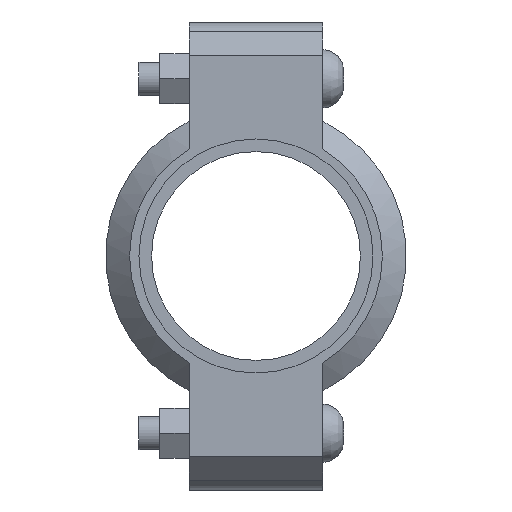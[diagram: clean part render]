
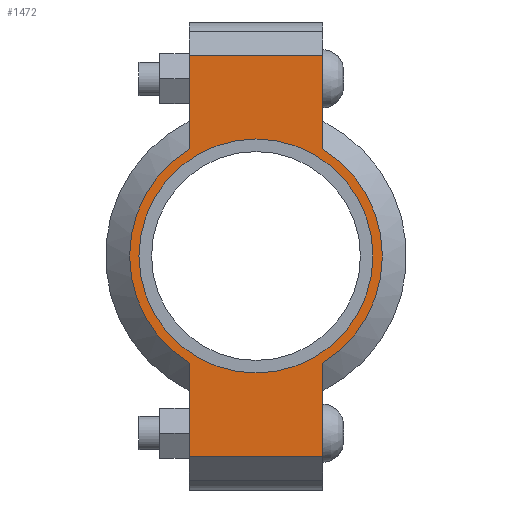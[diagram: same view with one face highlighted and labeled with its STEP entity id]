
A CAD part, left-side view. The second image highlights one B-rep face of the part: STEP entity #1472.
In plain terms, the highlighted planar face has unit normal (-1, 0, 0) as drawn and (0, 0, 1) by its records, which use the part's own axes.
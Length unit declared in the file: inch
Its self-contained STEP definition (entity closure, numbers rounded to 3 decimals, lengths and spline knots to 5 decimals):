
#152=LINE('',#2553,#243);
#160=LINE('',#2589,#251);
#167=LINE('',#2610,#258);
#176=LINE('',#2642,#267);
#177=LINE('',#2646,#268);
#178=LINE('',#2648,#269);
#243=VECTOR('',#2067,0.3937);
#251=VECTOR('',#2083,0.3937);
#258=VECTOR('',#2102,0.3937);
#267=VECTOR('',#2127,0.3937);
#268=VECTOR('',#2132,0.3937);
#269=VECTOR('',#2133,0.3937);
#321=FACE_BOUND('',#481,.T.);
#385=FACE_OUTER_BOUND('',#480,.T.);
#480=EDGE_LOOP('',(#1207,#1208,#1209,#1210,#1211,#1212,#1213,#1214));
#481=EDGE_LOOP('',(#1215));
#578=CIRCLE('',#1733,1.89);
#579=CIRCLE('',#1734,1.89);
#580=CIRCLE('',#1735,1.75);
#683=VERTEX_POINT('',#2550);
#684=VERTEX_POINT('',#2552);
#695=VERTEX_POINT('',#2584);
#696=VERTEX_POINT('',#2588);
#703=VERTEX_POINT('',#2607);
#704=VERTEX_POINT('',#2609);
#714=VERTEX_POINT('',#2645);
#715=VERTEX_POINT('',#2647);
#716=VERTEX_POINT('',#2650);
#847=EDGE_CURVE('',#684,#683,#152,.T.);
#861=EDGE_CURVE('',#696,#695,#160,.T.);
#871=EDGE_CURVE('',#704,#703,#167,.T.);
#886=EDGE_CURVE('',#696,#683,#176,.T.);
#887=EDGE_CURVE('',#695,#704,#578,.T.);
#888=EDGE_CURVE('',#714,#703,#177,.T.);
#889=EDGE_CURVE('',#714,#715,#178,.T.);
#890=EDGE_CURVE('',#715,#684,#579,.T.);
#891=EDGE_CURVE('',#716,#716,#580,.T.);
#1207=ORIENTED_EDGE('',*,*,#886,.F.);
#1208=ORIENTED_EDGE('',*,*,#861,.T.);
#1209=ORIENTED_EDGE('',*,*,#887,.T.);
#1210=ORIENTED_EDGE('',*,*,#871,.T.);
#1211=ORIENTED_EDGE('',*,*,#888,.F.);
#1212=ORIENTED_EDGE('',*,*,#889,.T.);
#1213=ORIENTED_EDGE('',*,*,#890,.T.);
#1214=ORIENTED_EDGE('',*,*,#847,.T.);
#1215=ORIENTED_EDGE('',*,*,#891,.T.);
#1326=PLANE('',#1732);
#1472=ADVANCED_FACE('',(#385,#321),#1326,.T.);
#1732=AXIS2_PLACEMENT_3D('',#2643,#2128,#2129);
#1733=AXIS2_PLACEMENT_3D('',#2644,#2130,#2131);
#1734=AXIS2_PLACEMENT_3D('',#2649,#2134,#2135);
#1735=AXIS2_PLACEMENT_3D('',#2651,#2136,#2137);
#2067=DIRECTION('',(1.,0.,0.));
#2083=DIRECTION('',(-1.,0.,0.));
#2102=DIRECTION('',(-1.,0.,0.));
#2127=DIRECTION('',(0.,-1.,0.));
#2128=DIRECTION('center_axis',(0.,0.,1.));
#2129=DIRECTION('ref_axis',(-1.,0.,0.));
#2130=DIRECTION('center_axis',(0.,0.,1.));
#2131=DIRECTION('ref_axis',(1.,0.,0.));
#2132=DIRECTION('',(0.,1.,0.));
#2133=DIRECTION('',(1.,0.,0.));
#2134=DIRECTION('center_axis',(0.,0.,1.));
#2135=DIRECTION('ref_axis',(1.,0.,0.));
#2136=DIRECTION('center_axis',(0.,0.,-1.));
#2137=DIRECTION('ref_axis',(1.,0.,0.));
#2550=CARTESIAN_POINT('',(3.,-1.,0.94));
#2552=CARTESIAN_POINT('',(1.60378,-1.,0.94));
#2553=CARTESIAN_POINT('',(3.5,-1.,0.94));
#2584=CARTESIAN_POINT('',(1.60378,1.,0.94));
#2588=CARTESIAN_POINT('',(3.,1.,0.94));
#2589=CARTESIAN_POINT('',(-3.5,1.,0.94));
#2607=CARTESIAN_POINT('',(-3.,1.,0.94));
#2609=CARTESIAN_POINT('',(-1.60378,1.,0.94));
#2610=CARTESIAN_POINT('',(-3.5,1.,0.94));
#2642=CARTESIAN_POINT('',(3.,-0.5,0.94));
#2643=CARTESIAN_POINT('Origin',(0.,0.,
0.94));
#2644=CARTESIAN_POINT('Origin',(0.,0.,0.94));
#2645=CARTESIAN_POINT('',(-3.,-1.,0.94));
#2646=CARTESIAN_POINT('',(-3.,0.5,0.94));
#2647=CARTESIAN_POINT('',(-1.60378,-1.,0.94));
#2648=CARTESIAN_POINT('',(3.5,-1.,0.94));
#2649=CARTESIAN_POINT('Origin',(0.,0.,0.94));
#2650=CARTESIAN_POINT('',(-1.75,0.,0.94));
#2651=CARTESIAN_POINT('Origin',(0.,0.,0.94));
